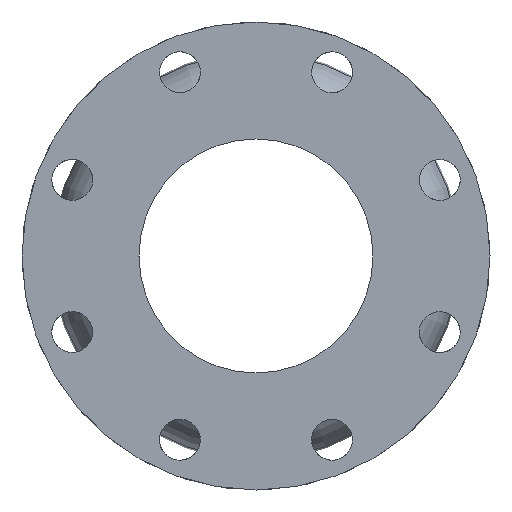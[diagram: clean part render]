
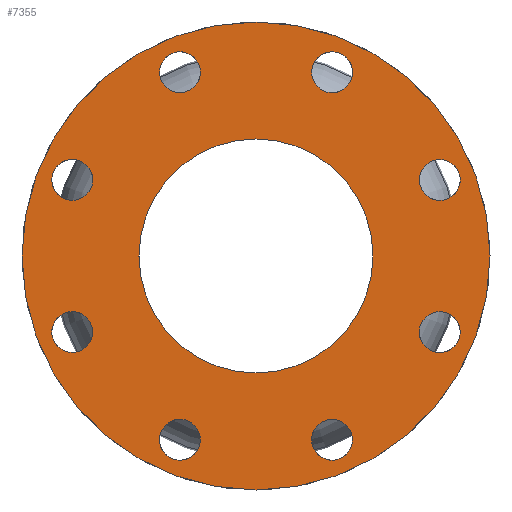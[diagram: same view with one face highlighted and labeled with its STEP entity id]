
A CAD part, left-side view. The second image highlights one B-rep face of the part: STEP entity #7355.
In plain terms, the highlighted planar face has unit normal (-1, 0, 0).
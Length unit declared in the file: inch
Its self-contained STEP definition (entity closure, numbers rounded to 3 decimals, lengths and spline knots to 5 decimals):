
#7096=CARTESIAN_POINT('',(-5.,1.93576,-3.61713));
#7097=VERTEX_POINT('',#7096);
#7098=CARTESIAN_POINT('',(-5.,1.6264,-3.92649));
#7099=DIRECTION('',(1.0,0.0,0.0));
#7100=DIRECTION('',(0.0,-0.707,-0.707));
#7101=AXIS2_PLACEMENT_3D('',#7098,#7099,#7100);
#7102=CIRCLE('',#7101,0.4375);
#7103=EDGE_CURVE('',#7097,#7097,#7102,.T.);
#7124=CARTESIAN_POINT('',(-5.,-1.1889,-3.92649));
#7125=VERTEX_POINT('',#7124);
#7126=CARTESIAN_POINT('',(-5.,-1.6264,-3.92649));
#7127=DIRECTION('',(1.0,0.0,0.0));
#7128=DIRECTION('',(0.0,-1.0,0.0));
#7129=AXIS2_PLACEMENT_3D('',#7126,#7127,#7128);
#7130=CIRCLE('',#7129,0.4375);
#7131=EDGE_CURVE('',#7125,#7125,#7130,.T.);
#7152=CARTESIAN_POINT('',(-5.,-3.61713,-1.93576));
#7153=VERTEX_POINT('',#7152);
#7154=CARTESIAN_POINT('',(-5.,-3.92649,-1.6264));
#7155=DIRECTION('',(1.0,0.0,0.0));
#7156=DIRECTION('',(0.0,-0.707,0.707));
#7157=AXIS2_PLACEMENT_3D('',#7154,#7155,#7156);
#7158=CIRCLE('',#7157,0.4375);
#7159=EDGE_CURVE('',#7153,#7153,#7158,.T.);
#7180=CARTESIAN_POINT('',(-5.,-3.92649,1.1889));
#7181=VERTEX_POINT('',#7180);
#7182=CARTESIAN_POINT('',(-5.,-3.92649,1.6264));
#7183=DIRECTION('',(1.0,0.0,0.0));
#7184=DIRECTION('',(0.0,0.0,1.0));
#7185=AXIS2_PLACEMENT_3D('',#7182,#7183,#7184);
#7186=CIRCLE('',#7185,0.4375);
#7187=EDGE_CURVE('',#7181,#7181,#7186,.T.);
#7208=CARTESIAN_POINT('',(-5.,-1.93576,3.61713));
#7209=VERTEX_POINT('',#7208);
#7210=CARTESIAN_POINT('',(-5.,-1.6264,3.92649));
#7211=DIRECTION('',(1.0,0.0,0.0));
#7212=DIRECTION('',(0.0,0.707,0.707));
#7213=AXIS2_PLACEMENT_3D('',#7210,#7211,#7212);
#7214=CIRCLE('',#7213,0.4375);
#7215=EDGE_CURVE('',#7209,#7209,#7214,.T.);
#7236=CARTESIAN_POINT('',(-5.,1.1889,3.92649));
#7237=VERTEX_POINT('',#7236);
#7238=CARTESIAN_POINT('',(-5.,1.6264,3.92649));
#7239=DIRECTION('',(1.0,0.0,0.0));
#7240=DIRECTION('',(0.0,1.0,0.0));
#7241=AXIS2_PLACEMENT_3D('',#7238,#7239,#7240);
#7242=CIRCLE('',#7241,0.4375);
#7243=EDGE_CURVE('',#7237,#7237,#7242,.T.);
#7264=CARTESIAN_POINT('',(-5.,3.61713,1.93576));
#7265=VERTEX_POINT('',#7264);
#7266=CARTESIAN_POINT('',(-5.,3.92649,1.6264));
#7267=DIRECTION('',(1.0,0.0,0.0));
#7268=DIRECTION('',(0.0,0.707,-0.707));
#7269=AXIS2_PLACEMENT_3D('',#7266,#7267,#7268);
#7270=CIRCLE('',#7269,0.4375);
#7271=EDGE_CURVE('',#7265,#7265,#7270,.T.);
#7292=CARTESIAN_POINT('',(-5.,3.92649,-1.1889));
#7293=VERTEX_POINT('',#7292);
#7294=CARTESIAN_POINT('',(-5.,3.92649,-1.6264));
#7295=DIRECTION('',(1.0,0.0,0.0));
#7296=DIRECTION('',(0.0,0.0,-1.0));
#7297=AXIS2_PLACEMENT_3D('',#7294,#7295,#7296);
#7298=CIRCLE('',#7297,0.4375);
#7299=EDGE_CURVE('',#7293,#7293,#7298,.T.);
#7304=CARTESIAN_POINT('',(-5.,4.9375,0.0));
#7305=DIRECTION('',(-1.0,0.0,0.0));
#7306=DIRECTION('',(0.0,0.0,1.0));
#7307=AXIS2_PLACEMENT_3D('',#7304,#7305,#7306);
#7308=PLANE('',#7307);
#7309=CARTESIAN_POINT('',(-5.,5.0,0.0));
#7310=VERTEX_POINT('',#7309);
#7311=CARTESIAN_POINT('',(-5.,0.0,0.0));
#7312=DIRECTION('',(1.0,0.0,0.0));
#7313=DIRECTION('',(0.0,1.0,0.0));
#7314=AXIS2_PLACEMENT_3D('',#7311,#7312,#7313);
#7315=CIRCLE('',#7314,5.0);
#7316=EDGE_CURVE('',#7310,#7310,#7315,.T.);
#7317=ORIENTED_EDGE('',*,*,#7316,.F.);
#7318=EDGE_LOOP('',(#7317));
#7319=FACE_OUTER_BOUND('',#7318,.T.);
#7320=ORIENTED_EDGE('',*,*,#7103,.T.);
#7321=EDGE_LOOP('',(#7320));
#7322=FACE_BOUND('',#7321,.T.);
#7323=ORIENTED_EDGE('',*,*,#7131,.T.);
#7324=EDGE_LOOP('',(#7323));
#7325=FACE_BOUND('',#7324,.T.);
#7326=ORIENTED_EDGE('',*,*,#7159,.T.);
#7327=EDGE_LOOP('',(#7326));
#7328=FACE_BOUND('',#7327,.T.);
#7329=ORIENTED_EDGE('',*,*,#7187,.T.);
#7330=EDGE_LOOP('',(#7329));
#7331=FACE_BOUND('',#7330,.T.);
#7332=ORIENTED_EDGE('',*,*,#7215,.T.);
#7333=EDGE_LOOP('',(#7332));
#7334=FACE_BOUND('',#7333,.T.);
#7335=ORIENTED_EDGE('',*,*,#7243,.T.);
#7336=EDGE_LOOP('',(#7335));
#7337=FACE_BOUND('',#7336,.T.);
#7338=ORIENTED_EDGE('',*,*,#7271,.T.);
#7339=EDGE_LOOP('',(#7338));
#7340=FACE_BOUND('',#7339,.T.);
#7341=ORIENTED_EDGE('',*,*,#7299,.T.);
#7342=EDGE_LOOP('',(#7341));
#7343=FACE_BOUND('',#7342,.T.);
#7344=CARTESIAN_POINT('',(-5.,2.5,0.0));
#7345=VERTEX_POINT('',#7344);
#7346=CARTESIAN_POINT('',(-5.,0.0,0.0));
#7347=DIRECTION('',(1.0,0.0,0.0));
#7348=DIRECTION('',(0.0,1.0,0.0));
#7349=AXIS2_PLACEMENT_3D('',#7346,#7347,#7348);
#7350=CIRCLE('',#7349,2.5);
#7351=EDGE_CURVE('',#7345,#7345,#7350,.T.);
#7352=ORIENTED_EDGE('',*,*,#7351,.T.);
#7353=EDGE_LOOP('',(#7352));
#7354=FACE_BOUND('',#7353,.T.);
#7355=ADVANCED_FACE('',(#7319,#7322,#7325,#7328,#7331,#7334,#7337,#7340,#7343,#7354),#7308,.T.);
